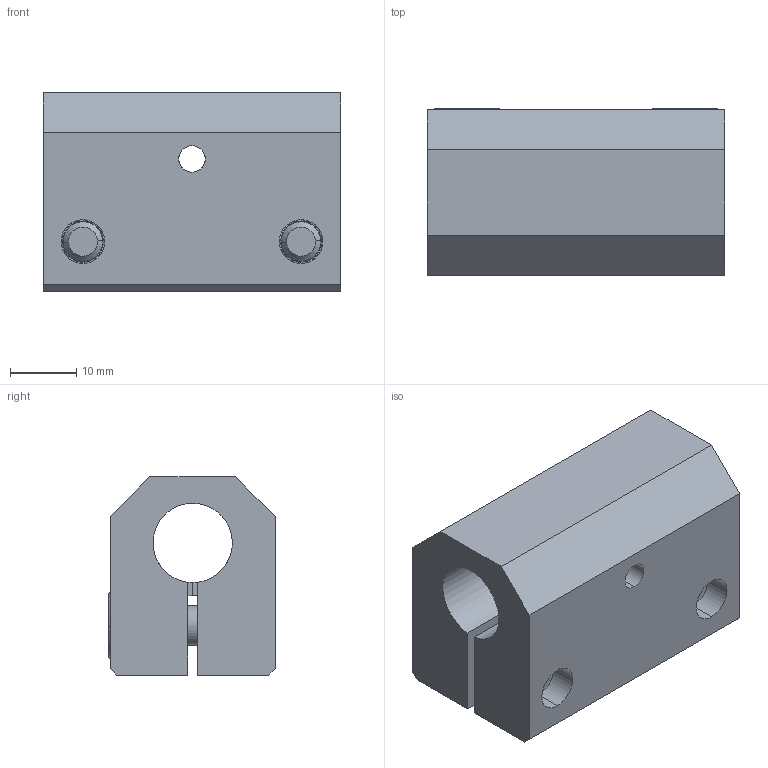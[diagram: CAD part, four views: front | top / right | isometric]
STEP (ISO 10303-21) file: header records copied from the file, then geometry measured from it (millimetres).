
FILE_DESCRIPTION (( 'STEP AP214' ), '1' );
FILE_NAME ('SMBF-1220.STEP', '2019-11-06T05:59:15', ( '微软用户' ), ( '微软中国' ), 'SwSTEP 2.0', 'SolidWorks 2016', '' );
FILE_SCHEMA (( 'AUTOMOTIVE_DESIGN' ));
Length unit declared in the file: millimetre
Products named in the file (1): SMBF-1220
Bounding box: 45 x 25.2 x 30 mm (x, y, z)
Volume: 21875 mm3; surface area: 11463.8 mm2
Topology: 5 solids, 5 shells, 381 faces, 1100 edges, 729 vertices
Faces by surface type: plane 326, cylinder 39, cone 12, bspline 4
Entity records: 17062 total; most frequent: CARTESIAN_POINT 2423, DIRECTION 2219, ORIENTED_EDGE 2200, EDGE_CURVE 1100, AXIS2_PLACEMENT_3D 757, VERTEX_POINT 729, LINE 705, VECTOR 705
